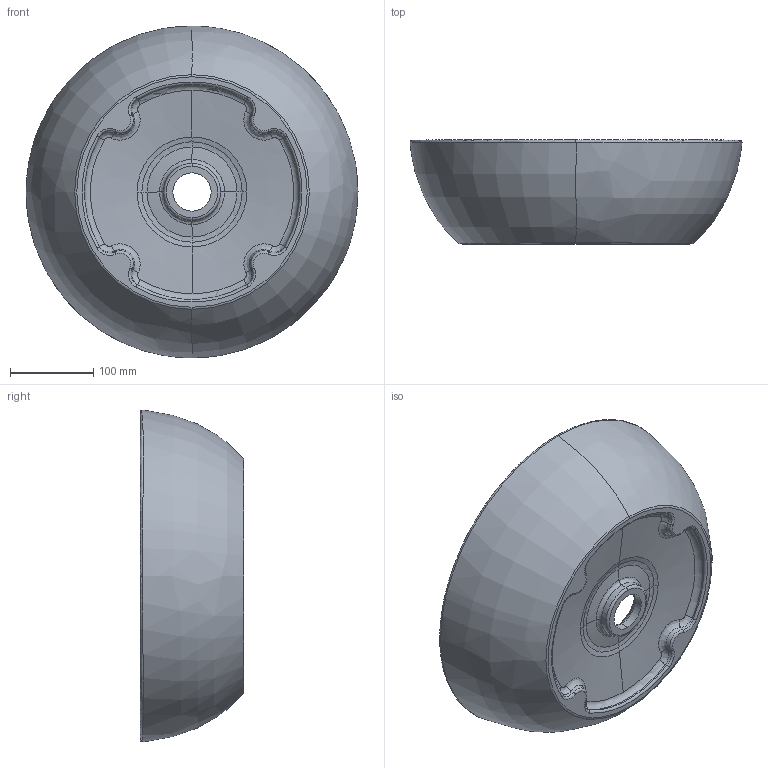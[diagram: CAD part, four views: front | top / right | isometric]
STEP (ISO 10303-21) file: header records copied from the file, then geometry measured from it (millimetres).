
FILE_DESCRIPTION((''),'2;1');
FILE_NAME('UM_KLEO3_02','2018-03-05T',('AX110'),(''),'CREO PARAMETRIC BY PTC INC, 2016260','CREO PARAMETRIC BY PTC INC, 2016260','');
FILE_SCHEMA(('CONFIG_CONTROL_DESIGN'));
Length unit declared in the file: millimetre
Products named in the file (1): UM_KLEO3_02
Bounding box: 399.54 x 125 x 399.54 mm (x, y, z)
Volume: 3941004.4 mm3; surface area: 401644.3 mm2
Topology: 1 solids, 1 shells, 94 faces, 208 edges, 116 vertices
Faces by surface type: bspline 56, torus 18, cone 14, plane 2, revolution 2, cylinder 2
Entity records: 6227 total; most frequent: CARTESIAN_POINT 4453, ORIENTED_EDGE 416, DIRECTION 294, EDGE_CURVE 208, AXIS2_PLACEMENT_3D 142, VERTEX_POINT 116, CIRCLE 106, EDGE_LOOP 96
